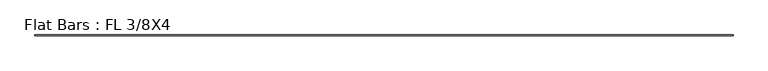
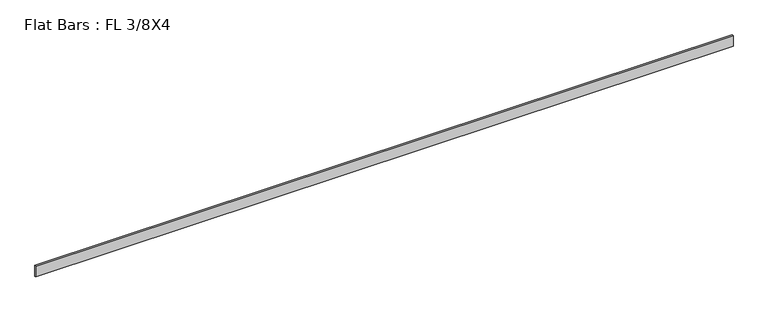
"""IFC4 building model written with IfcOpenShell, lengths in millimetres: member geometry, Flat Bars : FL 3/8X4."""

from ifc_helpers import new_model, si_unit, frame, origin, place, context, project, spatial, polyline, outline, extrude, source, transform, mapped, element, save


def flat_bars_fl_3_8x4_0a321cdc(model_context):
    return source(origin(), model_context, "Body", "SweptSolid", [
        extrude(outline(polyline([(-3179.9857662, 4.7625), (3147.7730219, 4.7625), (3147.7730219, -4.7625), (-3179.9857662, -4.7625), (-3179.9857662, 4.7625)])), frame((0.0, 0.0, -50.8), z_axis=(0.0, 0.0, 1.0), x_axis=(1.0, 0.0, 0.0)), (0.0, 0.0, 1.0), 101.6),
    ])


if __name__ == "__main__":
    model = new_model("IFC4")
    model_context = context("Model", 3, world=origin())
    ifc_project = project(units=[si_unit("LENGTHUNIT", "METRE", prefix="MILLI")], contexts=[model_context])
    site = spatial("IfcSite", under=ifc_project)
    building = spatial("IfcBuilding", under=site)
    placement = place(None, origin())
    flat_bars_fl_3_8x4_shape = flat_bars_fl_3_8x4_0a321cdc(model_context)
    element("IfcMember", 1, ObjectType="Flat Bars : FL 3/8X4", at=placement, inside=building, context=model_context, shape_type="MappedRepresentation", body=[
        mapped(flat_bars_fl_3_8x4_shape, transform((0.0, 0.0, 0.0), x_axis=(1.0, 0.0, 0.0), y_axis=(0.0, 1.0, 0.0), z_axis=(0.0, 0.0, 1.0))),
    ])
    save(model, "model.ifc")
